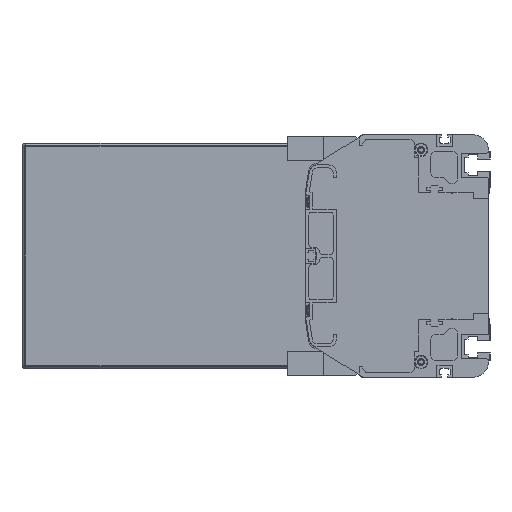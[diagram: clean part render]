
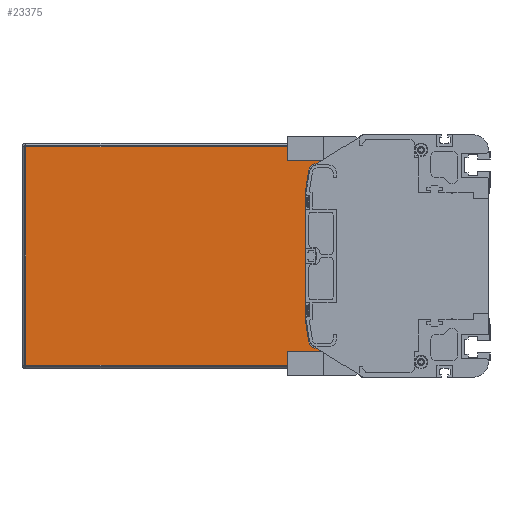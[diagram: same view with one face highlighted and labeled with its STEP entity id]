
A CAD part, left-side view. The second image highlights one B-rep face of the part: STEP entity #23375.
In plain terms, the highlighted planar face has unit normal (-1, 0, 0).
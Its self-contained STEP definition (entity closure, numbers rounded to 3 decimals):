
#1218=DIRECTION('',(0.,0.,-1.));
#1219=VECTOR('',#1218,11.);
#1220=CARTESIAN_POINT('',(2286.5,86.,-61.));
#1221=LINE('',#1220,#1219);
#1227=DIRECTION('',(0.,0.,-1.));
#1228=VECTOR('',#1227,11.);
#1229=CARTESIAN_POINT('',(2286.5,86.,72.));
#1230=LINE('',#1229,#1228);
#1240=DIRECTION('',(0.,-1.,0.));
#1241=VECTOR('',#1240,220.5);
#1242=CARTESIAN_POINT('',(2286.5,306.5,-72.));
#1243=LINE('',#1242,#1241);
#4604=DIRECTION('',(0.,1.,0.));
#4605=VECTOR('',#4604,28.728);
#4606=CARTESIAN_POINT('',(2286.5,86.,-61.));
#4607=LINE('',#4606,#4605);
#4612=CARTESIAN_POINT('',(2286.5,114.728,56.));
#4613=DIRECTION('',(-1.,0.,0.));
#4614=DIRECTION('',(0.,0.,1.));
#4615=AXIS2_PLACEMENT_3D('',#4612,#4613,#4614);
#4617=DIRECTION('',(0.,0.156,-0.988));
#4618=VECTOR('',#4617,14.963);
#4619=CARTESIAN_POINT('',(2286.5,119.666,56.78));
#4620=LINE('',#4619,#4618);
#4621=DIRECTION('',(0.,-0.156,-0.988));
#4622=VECTOR('',#4621,14.963);
#4623=CARTESIAN_POINT('',(2286.5,122.,-42.));
#4624=LINE('',#4623,#4622);
#4625=CARTESIAN_POINT('',(2286.5,114.728,-56.));
#4626=DIRECTION('',(-1.,0.,0.));
#4627=DIRECTION('',(0.,0.988,-0.156));
#4628=AXIS2_PLACEMENT_3D('',#4625,#4626,#4627);
#4634=DIRECTION('',(0.,0.,-1.));
#4635=VECTOR('',#4634,144.);
#4636=CARTESIAN_POINT('',(2286.5,306.5,72.));
#4637=LINE('',#4636,#4635);
#4803=DIRECTION('',(0.,1.,0.));
#4804=VECTOR('',#4803,220.5);
#4805=CARTESIAN_POINT('',(2286.5,86.,72.));
#4806=LINE('',#4805,#4804);
#5389=DIRECTION('',(0.,-1.,0.));
#5390=VECTOR('',#5389,28.728);
#5391=CARTESIAN_POINT('',(2286.5,114.728,61.));
#5392=LINE('',#5391,#5390);
#5405=DIRECTION('',(0.,0.,1.));
#5406=VECTOR('',#5405,84.);
#5407=CARTESIAN_POINT('',(2286.5,122.,-42.));
#5408=LINE('',#5407,#5406);
#15102=CARTESIAN_POINT('',(2286.5,306.5,-72.));
#15103=CARTESIAN_POINT('',(2286.5,86.,-72.));
#15104=VERTEX_POINT('',#15102);
#15105=VERTEX_POINT('',#15103);
#15106=CARTESIAN_POINT('',(2286.5,86.,-61.));
#15107=VERTEX_POINT('',#15106);
#15108=CARTESIAN_POINT('',(2286.5,114.728,-61.));
#15109=VERTEX_POINT('',#15108);
#15110=CARTESIAN_POINT('',(2286.5,119.666,-56.78));
#15111=VERTEX_POINT('',#15110);
#15112=CARTESIAN_POINT('',(2286.5,122.,-42.));
#15113=VERTEX_POINT('',#15112);
#15114=CARTESIAN_POINT('',(2286.5,122.,42.));
#15115=VERTEX_POINT('',#15114);
#15116=CARTESIAN_POINT('',(2286.5,119.666,56.78));
#15117=VERTEX_POINT('',#15116);
#15118=CARTESIAN_POINT('',(2286.5,114.728,61.));
#15119=VERTEX_POINT('',#15118);
#15120=CARTESIAN_POINT('',(2286.5,86.,61.));
#15121=VERTEX_POINT('',#15120);
#15122=CARTESIAN_POINT('',(2286.5,86.,72.));
#15123=VERTEX_POINT('',#15122);
#15124=CARTESIAN_POINT('',(2286.5,306.5,72.));
#15125=VERTEX_POINT('',#15124);
#23348=CARTESIAN_POINT('',(2286.5,196.25,0.));
#23349=DIRECTION('',(1.,0.,0.));
#23350=DIRECTION('',(0.,0.,-1.));
#23351=AXIS2_PLACEMENT_3D('',#23348,#23349,#23350);
#23352=PLANE('',#23351);
#23353=ORIENTED_EDGE('',*,*,#19558,.F.);
#23355=ORIENTED_EDGE('',*,*,#23354,.F.);
#23357=ORIENTED_EDGE('',*,*,#23356,.F.);
#23358=ORIENTED_EDGE('',*,*,#19540,.T.);
#23360=ORIENTED_EDGE('',*,*,#23359,.F.);
#23362=ORIENTED_EDGE('',*,*,#23361,.T.);
#23364=ORIENTED_EDGE('',*,*,#23363,.T.);
#23366=ORIENTED_EDGE('',*,*,#23365,.F.);
#23368=ORIENTED_EDGE('',*,*,#23367,.T.);
#23370=ORIENTED_EDGE('',*,*,#23369,.T.);
#23371=ORIENTED_EDGE('',*,*,#23340,.F.);
#23372=ORIENTED_EDGE('',*,*,#19508,.T.);
#23373=EDGE_LOOP('',(#23353,#23355,#23357,#23358,#23360,#23362,#23364,#23366,
#23368,#23370,#23371,#23372));
#23374=FACE_OUTER_BOUND('',#23373,.F.);
#23375=ADVANCED_FACE('',(#23374),#23352,.F.);
#4616=CIRCLE('',#4615,5.);
#4629=CIRCLE('',#4628,5.);
#19508=EDGE_CURVE('',#15107,#15105,#1221,.T.);
#19540=EDGE_CURVE('',#15123,#15121,#1230,.T.);
#19558=EDGE_CURVE('',#15104,#15105,#1243,.T.);
#23340=EDGE_CURVE('',#15107,#15109,#4607,.T.);
#23354=EDGE_CURVE('',#15125,#15104,#4637,.T.);
#23356=EDGE_CURVE('',#15123,#15125,#4806,.T.);
#23359=EDGE_CURVE('',#15119,#15121,#5392,.T.);
#23361=EDGE_CURVE('',#15119,#15117,#4616,.T.);
#23363=EDGE_CURVE('',#15117,#15115,#4620,.T.);
#23365=EDGE_CURVE('',#15113,#15115,#5408,.T.);
#23367=EDGE_CURVE('',#15113,#15111,#4624,.T.);
#23369=EDGE_CURVE('',#15111,#15109,#4629,.T.);
